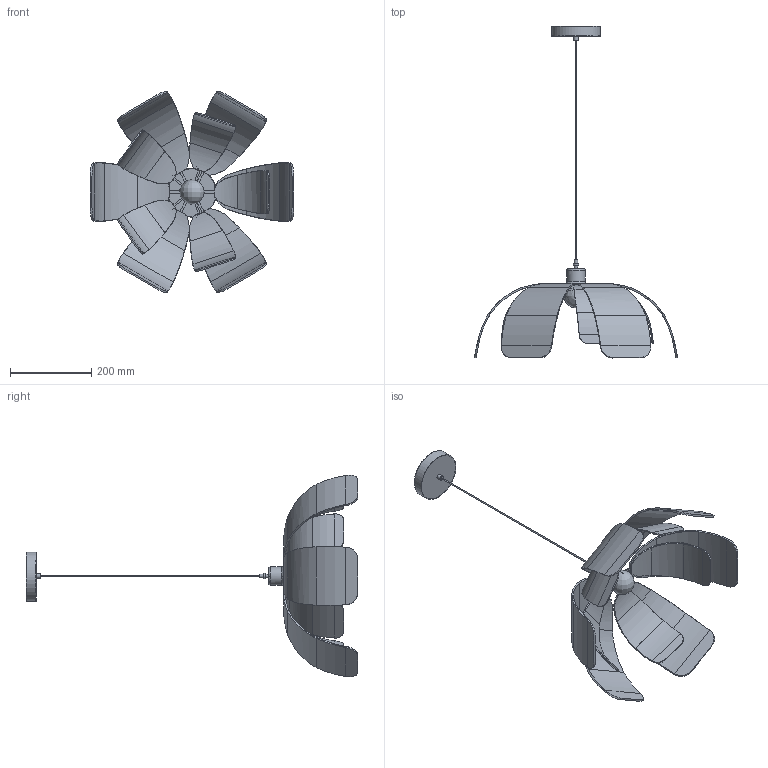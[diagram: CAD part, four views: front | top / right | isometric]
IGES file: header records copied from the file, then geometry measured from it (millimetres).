
Global section: file name: Okai Pendant Lamp; native system: AutoCAD 2022 - 简体中文 (Simplified Chinese),62HAuto; preprocessor: desk Translation Framework DWG producer (atf_dwg_producer); organization: unknown; date: 20250221.095611; units: millimetre
Bounding box: 500.34 x 816.08 x 495.48 mm (x, y, z)
Volume: 1326267.3 mm3; surface area: 753754.2 mm2
Topology: 37 solids, 37 shells, 395 faces, 1030 edges, 707 vertices
Faces by surface type: bspline 388, revolution 7
